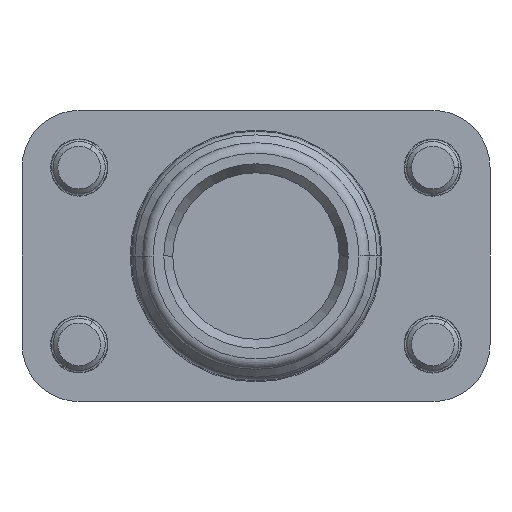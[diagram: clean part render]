
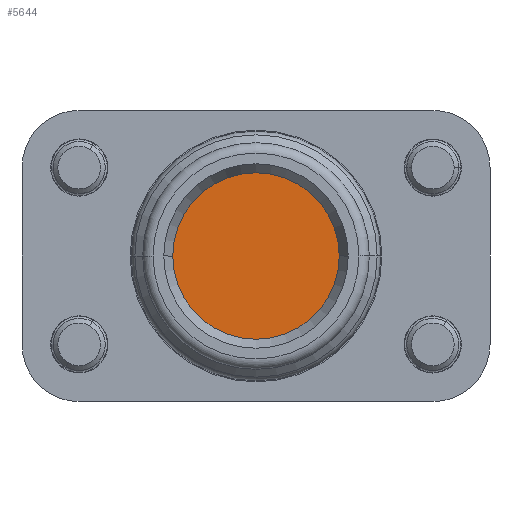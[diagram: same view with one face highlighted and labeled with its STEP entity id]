
A CAD part, front view. The second image highlights one B-rep face of the part: STEP entity #5644.
In plain terms, the highlighted planar face has unit normal (0, -1, 0).
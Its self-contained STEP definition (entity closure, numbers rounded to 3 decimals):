
#1926 = ORIENTED_EDGE ( 'NONE', *, *, #5632, .T. ) ;
#2370 = CARTESIAN_POINT ( 'NONE',  ( 0., 0., 0. ) ) ;
#2403 = CARTESIAN_POINT ( 'NONE',  ( 0., 0., 0. ) ) ;
#2453 = CARTESIAN_POINT ( 'NONE',  ( 0., 0., 0. ) ) ;
#2545 = AXIS2_PLACEMENT_3D ( 'NONE', #2453, #4425, #11262 ) ;
#2593 = FACE_OUTER_BOUND ( 'NONE', #12406, .T. ) ;
#3401 = DIRECTION ( 'NONE',  ( 0., -1., 0. ) ) ;
#3980 = AXIS2_PLACEMENT_3D ( 'NONE', #2403, #12169, #5362 ) ;
#4425 = DIRECTION ( 'NONE',  ( 0., -1., 0. ) ) ;
#5362 = DIRECTION ( 'NONE',  ( 0., 0., -1. ) ) ;
#5632 = EDGE_CURVE ( 'NONE', #9339, #9046, #9312, .T. ) ;
#5644 = ADVANCED_FACE ( 'NONE', ( #2593 ), #11184, .T. ) ;
#6487 = AXIS2_PLACEMENT_3D ( 'NONE', #2370, #3401, #12173 ) ;
#8982 = EDGE_CURVE ( 'NONE', #9046, #9339, #11281, .T. ) ;
#9046 = VERTEX_POINT ( 'NONE', #10230 ) ;
#9312 = CIRCLE ( 'NONE', #6487, 8. ) ;
#9339 = VERTEX_POINT ( 'NONE', #12154 ) ;
#10230 = CARTESIAN_POINT ( 'NONE',  ( 0., 0., -8. ) ) ;
#11184 = PLANE ( 'NONE',  #2545 ) ;
#11262 = DIRECTION ( 'NONE',  ( 0., 0., -1. ) ) ;
#11281 = CIRCLE ( 'NONE', #3980, 8. ) ;
#11541 = ORIENTED_EDGE ( 'NONE', *, *, #8982, .T. ) ;
#12154 = CARTESIAN_POINT ( 'NONE',  ( 0., 0., 8. ) ) ;
#12169 = DIRECTION ( 'NONE',  ( 0., -1., 0. ) ) ;
#12173 = DIRECTION ( 'NONE',  ( 0., 0., -1. ) ) ;
#12406 = EDGE_LOOP ( 'NONE', ( #11541, #1926 ) ) ;
